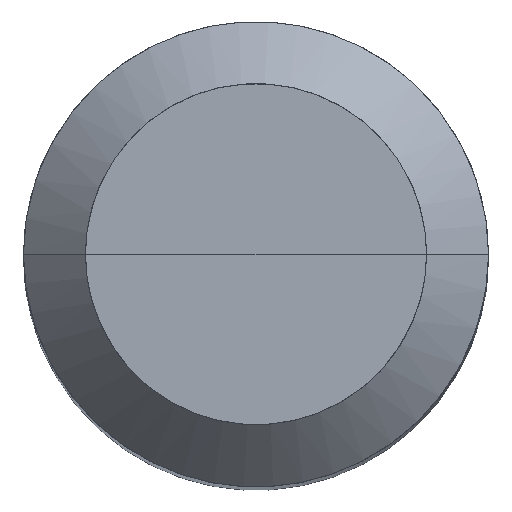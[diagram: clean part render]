
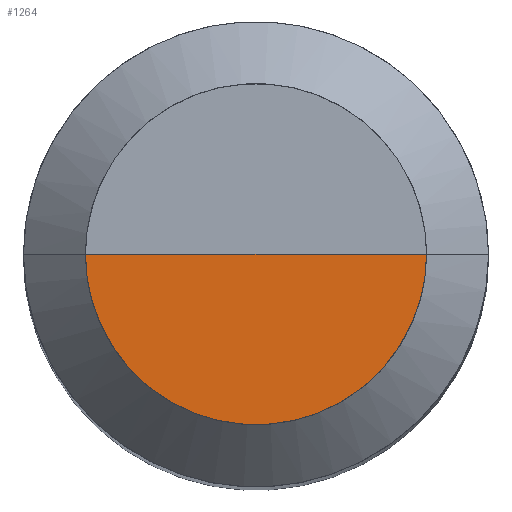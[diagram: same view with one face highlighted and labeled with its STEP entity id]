
A CAD part, top view. The second image highlights one B-rep face of the part: STEP entity #1264.
In plain terms, the highlighted free-form (B-spline) face has degree [1, 2] with [2, 5] control points.
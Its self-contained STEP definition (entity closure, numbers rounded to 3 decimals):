
#907=CARTESIAN_POINT('',(2.2,0.0,26.134));
#911=CARTESIAN_POINT('',(-2.2,0.0,26.134));
#912=CARTESIAN_POINT('',(0.0,0.0,26.134));
#922=CARTESIAN_POINT('',(-2.2,-2.2,26.134));
#923=CARTESIAN_POINT('',(0.0,-2.2,26.134));
#924=CARTESIAN_POINT('',(2.2,-2.2,26.134));
#1249=(
BOUNDED_SURFACE()
B_SPLINE_SURFACE(1,2,(
(#911,#922,#923,#924,#907),
(#912,#912,#912,#912,#912)
), .UNSPECIFIED.,.F.,.F.,.F.)
B_SPLINE_SURFACE_WITH_KNOTS((2,2),(3,2,3),(
0.0,1.0),(
0.0,0.5,1.0), .UNSPECIFIED.)
GEOMETRIC_REPRESENTATION_ITEM()
RATIONAL_B_SPLINE_SURFACE(((1.0,0.707,1.0,0.707,1.0),
(1.0,0.707,1.0,0.707,1.0)
))
REPRESENTATION_ITEM('')
SURFACE()
);
#1250=(
BOUNDED_CURVE()
B_SPLINE_CURVE(2,(#907,#924,#923,#922,#911),.UNSPECIFIED.,.F.,.F.)
B_SPLINE_CURVE_WITH_KNOTS((3,2,3),
(0.0,0.5,1.0),.UNSPECIFIED.)
CURVE()
GEOMETRIC_REPRESENTATION_ITEM()
RATIONAL_B_SPLINE_CURVE((1.0,0.707,1.0,0.707,1.0))
REPRESENTATION_ITEM('')
);
#1251=(
BOUNDED_CURVE()
B_SPLINE_CURVE(1,(#911,#912),.UNSPECIFIED.,.F.,.F.)
B_SPLINE_CURVE_WITH_KNOTS((2,2),
(0.0,1.0),.UNSPECIFIED.)
CURVE()
GEOMETRIC_REPRESENTATION_ITEM()
RATIONAL_B_SPLINE_CURVE((1.0,1.0))
REPRESENTATION_ITEM('')
);
#1252=(
BOUNDED_CURVE()
B_SPLINE_CURVE(1,(#912,#907),.UNSPECIFIED.,.F.,.F.)
B_SPLINE_CURVE_WITH_KNOTS((2,2),
(0.0,1.0),.UNSPECIFIED.)
CURVE()
GEOMETRIC_REPRESENTATION_ITEM()
RATIONAL_B_SPLINE_CURVE((1.0,1.0))
REPRESENTATION_ITEM('')
);
#1253=VERTEX_POINT('',#907);
#1254=VERTEX_POINT('',#911);
#1255=VERTEX_POINT('',#912);
#1256=EDGE_CURVE('',#1253,#1254,#1250,.T.);
#1257=EDGE_CURVE('',#1254,#1255,#1251,.T.);
#1258=EDGE_CURVE('',#1255,#1253,#1252,.T.);
#1259=ORIENTED_EDGE('',*,*,#1256,.T.);
#1260=ORIENTED_EDGE('',*,*,#1257,.T.);
#1261=ORIENTED_EDGE('',*,*,#1258,.T.);
#1262=EDGE_LOOP('',(#1259,#1260,#1261));
#1263=FACE_OUTER_BOUND('',#1262,.T.);
#1264=ADVANCED_FACE('',(#1263),#1249,.T.);
